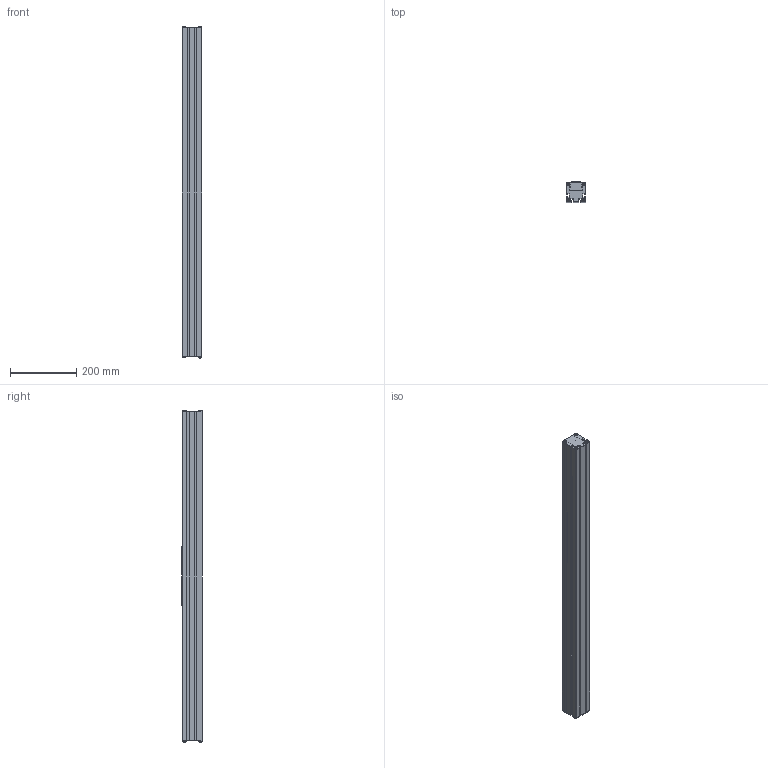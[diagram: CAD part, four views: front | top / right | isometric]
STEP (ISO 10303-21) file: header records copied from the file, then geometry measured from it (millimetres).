
FILE_DESCRIPTION (( 'STEP AP214' ), '1' );
FILE_NAME ('LLR60.STEP', '2022-06-27T12:34:46', ( '' ), ( '' ), 'SwSTEP 2.0', 'SolidWorks 2020', '' );
FILE_SCHEMA (( 'AUTOMOTIVE_DESIGN' ));
Length unit declared in the file: millimetre
Products named in the file (4): LLR60; end plate^LLR60; profile^LLR60; carriage^LLR60_carriage version 0
Assembly tree (4 placements, depth 2):
  LLR60
    profile^LLR60
    carriage^LLR60_carriage version 0
    end plate^LLR60  x2
Bounding box: 60 x 62.5 x 999.92 mm (x, y, z)
Volume: 2460307.3 mm3; surface area: 483616.9 mm2
Topology: 6 solids, 6 shells, 387 faces, 997 edges, 638 vertices
Faces by surface type: plane 266, cylinder 77, cone 28, bspline 16
Entity records: 9621 total; most frequent: CARTESIAN_POINT 2527, ORIENTED_EDGE 1386, DIRECTION 1335, EDGE_CURVE 693, VECTOR 555, LINE 555, VERTEX_POINT 454, AXIS2_PLACEMENT_3D 390
